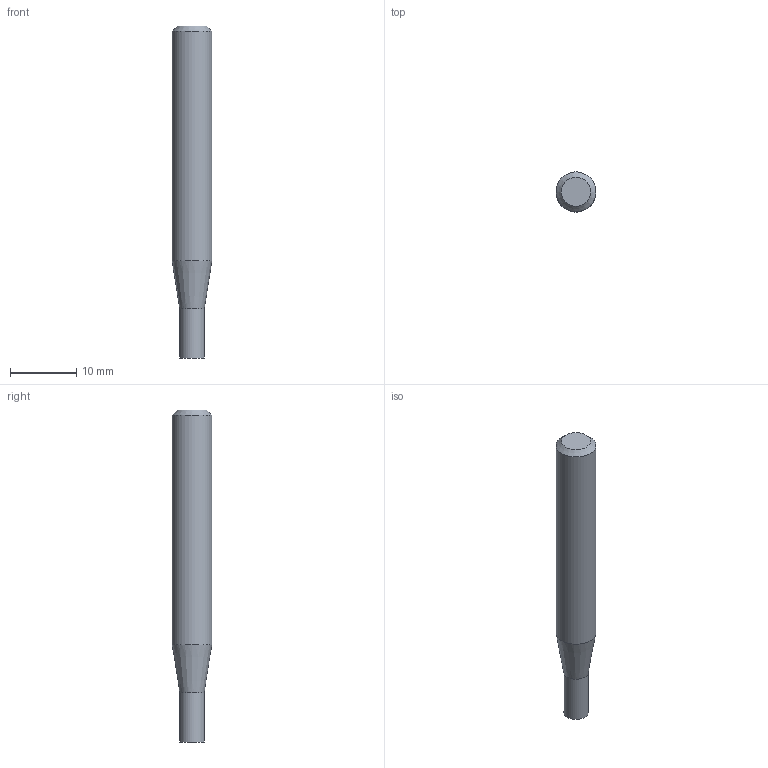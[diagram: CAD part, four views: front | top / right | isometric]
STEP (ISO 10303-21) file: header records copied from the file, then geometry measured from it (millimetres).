
FILE_DESCRIPTION((''),'2;1');
FILE_NAME('C:\Users\nsx150\AppData\Local\Temp\Mastercam 2021\98T1Q6BTT1\TEMP.step','2021-10-21T14:48:26',(''),(''),'STEP Write','Mastercam 2021 ... CNC Software, Inc.','');
FILE_SCHEMA(('AUTOMOTIVE_DESIGN'));
Length unit declared in the file: millimetre
Products named in the file (1): None
Bounding box: 6 x 6 x 50 mm (x, y, z)
Volume: 1209.9 mm3; surface area: 915 mm2
Topology: 2 solids, 2 shells, 8 faces, 10 edges, 6 vertices
Faces by surface type: plane 4, cylinder 2, cone 2
Full cylindrical faces by diameter (mm): 3.7 x1, 6 x1
Entity records: 190 total; most frequent: DIRECTION 32, CARTESIAN_POINT 22, AXIS2_PLACEMENT_3D 16, ORIENTED_EDGE 12, EDGE_LOOP 12, STYLED_ITEM 11, ADVANCED_FACE 8, VERTEX_POINT 6
